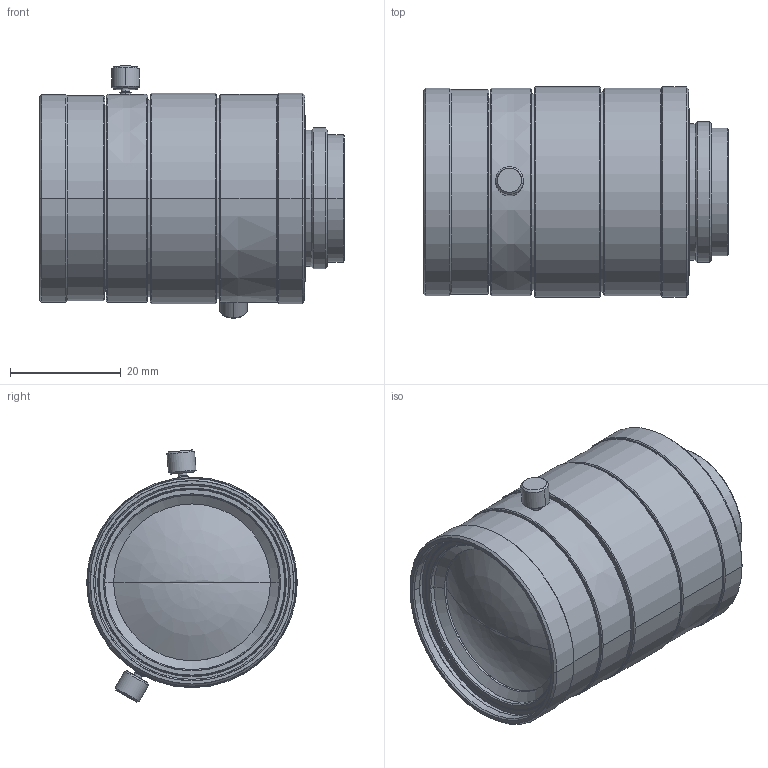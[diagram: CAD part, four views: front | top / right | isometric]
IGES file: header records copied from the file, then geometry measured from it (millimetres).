
Start section: SolidWorks IGES file using analytic representation for surfaces
Global section: file name: C:\Documents and Settings\Tsuji_vst\My Documents\図面\_3D\VS-1214H1.IGS,1; native system: 5HSolidWorks 2012; preprocessor: SolidWorks 2012; author: Tsuji_vst; date: 130510.160130; units: millimetre
Bounding box: 55 x 38 x 45.51 mm (x, y, z)
Surface area: 10025.7 mm2 (no closed solid volume)
Topology: 0 solids, 0 shells, 128 faces, 2412 edges, 2411 vertices
Faces by surface type: revolution 108, bspline 20
